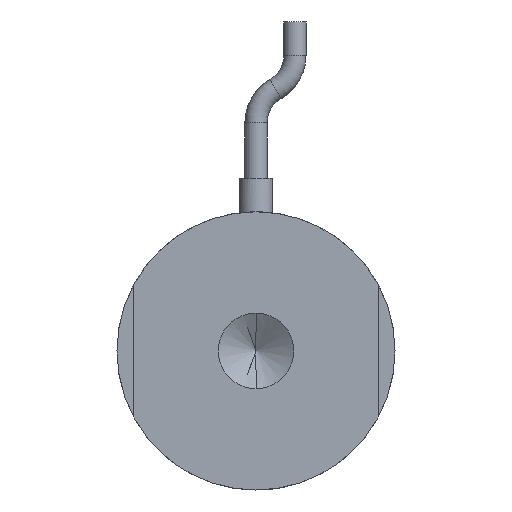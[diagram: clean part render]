
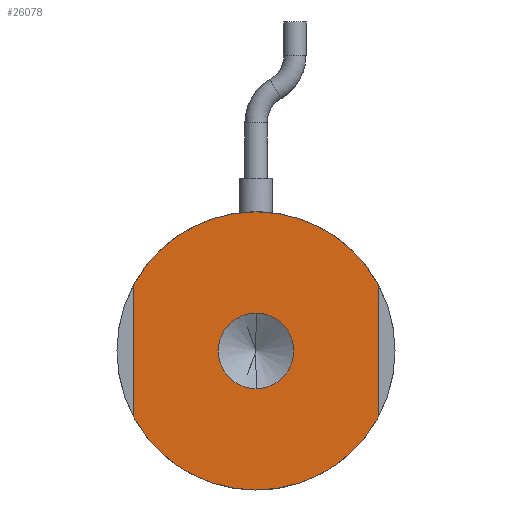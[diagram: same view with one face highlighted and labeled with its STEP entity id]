
A CAD part, front view. The second image highlights one B-rep face of the part: STEP entity #26078.
In plain terms, the highlighted planar face has unit normal (0, -1, 0).
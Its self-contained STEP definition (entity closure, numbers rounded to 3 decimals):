
#44 = AXIS2_PLACEMENT_3D ( 'NONE', #32684, #12170, #36213 ) ;
#441 = ORIENTED_EDGE ( 'NONE', *, *, #13199, .F. ) ;
#586 = LINE ( 'NONE', #2899, #37348 ) ;
#1199 = VERTEX_POINT ( 'NONE', #16404 ) ;
#2048 = CIRCLE ( 'NONE', #13988, 12.5 ) ;
#2059 = ORIENTED_EDGE ( 'NONE', *, *, #12832, .F. ) ;
#2257 = CIRCLE ( 'NONE', #44, 3.4 ) ;
#2899 = CARTESIAN_POINT ( 'NONE',  ( 11., 0., 0. ) ) ;
#3784 = CARTESIAN_POINT ( 'NONE',  ( 0., 0., 12.5 ) ) ;
#4283 = VERTEX_POINT ( 'NONE', #32530 ) ;
#4732 = ORIENTED_EDGE ( 'NONE', *, *, #32747, .F. ) ;
#4866 = FACE_BOUND ( 'NONE', #30881, .T. ) ;
#5347 = ORIENTED_EDGE ( 'NONE', *, *, #38763, .F. ) ;
#7036 = CIRCLE ( 'NONE', #43994, 12.5 ) ;
#9385 = DIRECTION ( 'NONE',  ( 0., 1., 0. ) ) ;
#11363 = DIRECTION ( 'NONE',  ( 0., 0., 1. ) ) ;
#11812 = AXIS2_PLACEMENT_3D ( 'NONE', #34180, #37680, #17032 ) ;
#12138 = DIRECTION ( 'NONE',  ( 0., 1., 0. ) ) ;
#12170 = DIRECTION ( 'NONE',  ( 0., -1., 0. ) ) ;
#12275 = CARTESIAN_POINT ( 'NONE',  ( 0., 0., -3.4 ) ) ;
#12832 = EDGE_CURVE ( 'NONE', #23075, #14516, #2048, .T. ) ;
#13026 = ORIENTED_EDGE ( 'NONE', *, *, #35612, .F. ) ;
#13199 = EDGE_CURVE ( 'NONE', #36322, #23476, #7036, .T. ) ;
#13988 = AXIS2_PLACEMENT_3D ( 'NONE', #39109, #18490, #42572 ) ;
#14016 = FACE_OUTER_BOUND ( 'NONE', #24956, .T. ) ;
#14516 = VERTEX_POINT ( 'NONE', #3784 ) ;
#16133 = CARTESIAN_POINT ( 'NONE',  ( 11., 0., -5.937 ) ) ;
#16404 = CARTESIAN_POINT ( 'NONE',  ( 11., 0., 5.937 ) ) ;
#16424 = ORIENTED_EDGE ( 'NONE', *, *, #24139, .F. ) ;
#16967 = DIRECTION ( 'NONE',  ( 0., -1., 0. ) ) ;
#17032 = DIRECTION ( 'NONE',  ( 0., 0., 1. ) ) ;
#17579 = ORIENTED_EDGE ( 'NONE', *, *, #41130, .F. ) ;
#18490 = DIRECTION ( 'NONE',  ( 0., 1., 0. ) ) ;
#18929 = ORIENTED_EDGE ( 'NONE', *, *, #23924, .F. ) ;
#20409 = CARTESIAN_POINT ( 'NONE',  ( 0., 0., 0. ) ) ;
#23075 = VERTEX_POINT ( 'NONE', #25429 ) ;
#23476 = VERTEX_POINT ( 'NONE', #35655 ) ;
#23824 = DIRECTION ( 'NONE',  ( 0., 0., 1. ) ) ;
#23924 = EDGE_CURVE ( 'NONE', #23476, #4283, #40658, .T. ) ;
#24139 = EDGE_CURVE ( 'NONE', #4283, #23075, #30350, .T. ) ;
#24956 = EDGE_LOOP ( 'NONE', ( #16424, #18929, #441, #5347, #4732, #2059 ) ) ;
#25429 = CARTESIAN_POINT ( 'NONE',  ( -11., 0., 5.937 ) ) ;
#26078 = ADVANCED_FACE ( 'NONE', ( #4866, #14016 ), #37533, .F. ) ;
#26530 = VERTEX_POINT ( 'NONE', #27491 ) ;
#27225 = CIRCLE ( 'NONE', #35563, 12.5 ) ;
#27491 = CARTESIAN_POINT ( 'NONE',  ( 0., 0., 3.4 ) ) ;
#28200 = CIRCLE ( 'NONE', #41131, 3.4 ) ;
#29886 = CARTESIAN_POINT ( 'NONE',  ( 0., 0., 0. ) ) ;
#30350 = LINE ( 'NONE', #35232, #36338 ) ;
#30427 = DIRECTION ( 'NONE',  ( 0., 0., -1. ) ) ;
#30881 = EDGE_LOOP ( 'NONE', ( #17579, #13026 ) ) ;
#32530 = CARTESIAN_POINT ( 'NONE',  ( -11., 0., -5.937 ) ) ;
#32655 = CARTESIAN_POINT ( 'NONE',  ( 0., 0., 0. ) ) ;
#32684 = CARTESIAN_POINT ( 'NONE',  ( 0., 0., 0. ) ) ;
#32747 = EDGE_CURVE ( 'NONE', #14516, #1199, #27225, .T. ) ;
#33366 = DIRECTION ( 'NONE',  ( 0., 0., 1. ) ) ;
#34180 = CARTESIAN_POINT ( 'NONE',  ( 0., 0., 0. ) ) ;
#35232 = CARTESIAN_POINT ( 'NONE',  ( -11., 0., 0. ) ) ;
#35563 = AXIS2_PLACEMENT_3D ( 'NONE', #29886, #9385, #33366 ) ;
#35612 = EDGE_CURVE ( 'NONE', #26530, #37908, #28200, .T. ) ;
#35655 = CARTESIAN_POINT ( 'NONE',  ( 0., 0., -12.5 ) ) ;
#36175 = DIRECTION ( 'NONE',  ( 0., 0., 1. ) ) ;
#36213 = DIRECTION ( 'NONE',  ( 0., 0., -1. ) ) ;
#36322 = VERTEX_POINT ( 'NONE', #16133 ) ;
#36338 = VECTOR ( 'NONE', #11363, 1000. ) ;
#37348 = VECTOR ( 'NONE', #30427, 1000. ) ;
#37533 = PLANE ( 'NONE',  #11812 ) ;
#37621 = CARTESIAN_POINT ( 'NONE',  ( 0., 0., 0. ) ) ;
#37680 = DIRECTION ( 'NONE',  ( 0., 1., 0. ) ) ;
#37908 = VERTEX_POINT ( 'NONE', #12275 ) ;
#38763 = EDGE_CURVE ( 'NONE', #1199, #36322, #586, .T. ) ;
#39109 = CARTESIAN_POINT ( 'NONE',  ( 0., 0., 0. ) ) ;
#40658 = CIRCLE ( 'NONE', #43745, 12.5 ) ;
#41069 = DIRECTION ( 'NONE',  ( 0., 0., -1. ) ) ;
#41130 = EDGE_CURVE ( 'NONE', #37908, #26530, #2257, .T. ) ;
#41131 = AXIS2_PLACEMENT_3D ( 'NONE', #37621, #16967, #41069 ) ;
#42572 = DIRECTION ( 'NONE',  ( 0., 0., 1. ) ) ;
#43745 = AXIS2_PLACEMENT_3D ( 'NONE', #32655, #12138, #36175 ) ;
#43994 = AXIS2_PLACEMENT_3D ( 'NONE', #20409, #44473, #23824 ) ;
#44473 = DIRECTION ( 'NONE',  ( 0., 1., 0. ) ) ;
